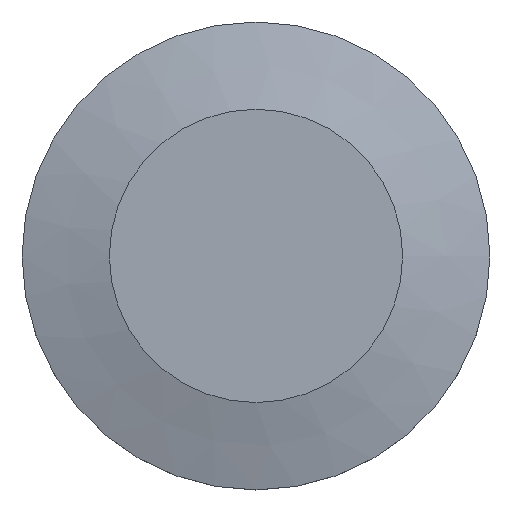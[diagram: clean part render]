
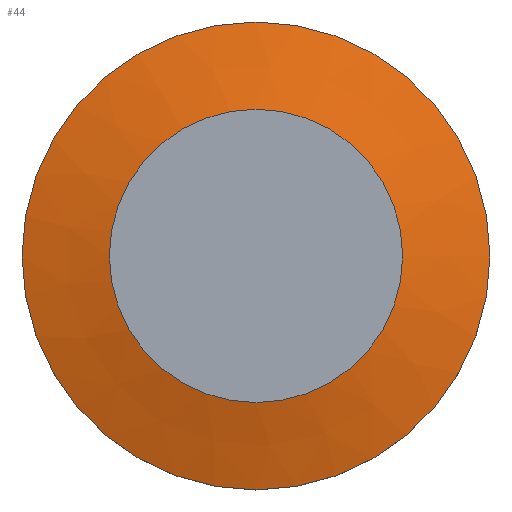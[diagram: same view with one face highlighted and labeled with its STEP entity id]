
A CAD part, top view. The second image highlights one B-rep face of the part: STEP entity #44.
In plain terms, the highlighted conical face has half-angle 75 degrees and reference radius 20 mm.
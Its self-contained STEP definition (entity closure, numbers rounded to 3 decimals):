
#44 = ADVANCED_FACE( '', ( #87, #88 ), #89, .T. );
#87 = FACE_BOUND( '', #124, .T. );
#88 = FACE_OUTER_BOUND( '', #125, .T. );
#89 = CONICAL_SURFACE( '', #126, 20., 1.309 );
#124 = EDGE_LOOP( '', ( #167 ) );
#125 = EDGE_LOOP( '', ( #168 ) );
#126 = AXIS2_PLACEMENT_3D( '', #169, #170, #171 );
#167 = ORIENTED_EDGE( '', *, *, #187, .F. );
#168 = ORIENTED_EDGE( '', *, *, #179, .T. );
#169 = CARTESIAN_POINT( '', ( 0., 0., 3. ) );
#170 = DIRECTION( '', ( 0., 0., -1. ) );
#171 = DIRECTION( '', ( -1., 0., 0. ) );
#179 = EDGE_CURVE( '', #194, #194, #195, .T. );
#187 = EDGE_CURVE( '', #207, #207, #208, .T. );
#194 = VERTEX_POINT( '', #216 );
#195 = CIRCLE( '', #217, 20. );
#207 = VERTEX_POINT( '', #229 );
#208 = CIRCLE( '', #230, 12.536 );
#216 = CARTESIAN_POINT( '', ( 20., 0., 3. ) );
#217 = AXIS2_PLACEMENT_3D( '', #237, #238, #239 );
#229 = CARTESIAN_POINT( '', ( 12.536, 0., 5. ) );
#230 = AXIS2_PLACEMENT_3D( '', #252, #253, #254 );
#237 = CARTESIAN_POINT( '', ( 0., 0., 3. ) );
#238 = DIRECTION( '', ( 0., 0., 1. ) );
#239 = DIRECTION( '', ( 1., 0., 0. ) );
#252 = CARTESIAN_POINT( '', ( 0., 0., 5. ) );
#253 = DIRECTION( '', ( 0., 0., 1. ) );
#254 = DIRECTION( '', ( 1., 0., 0. ) );
